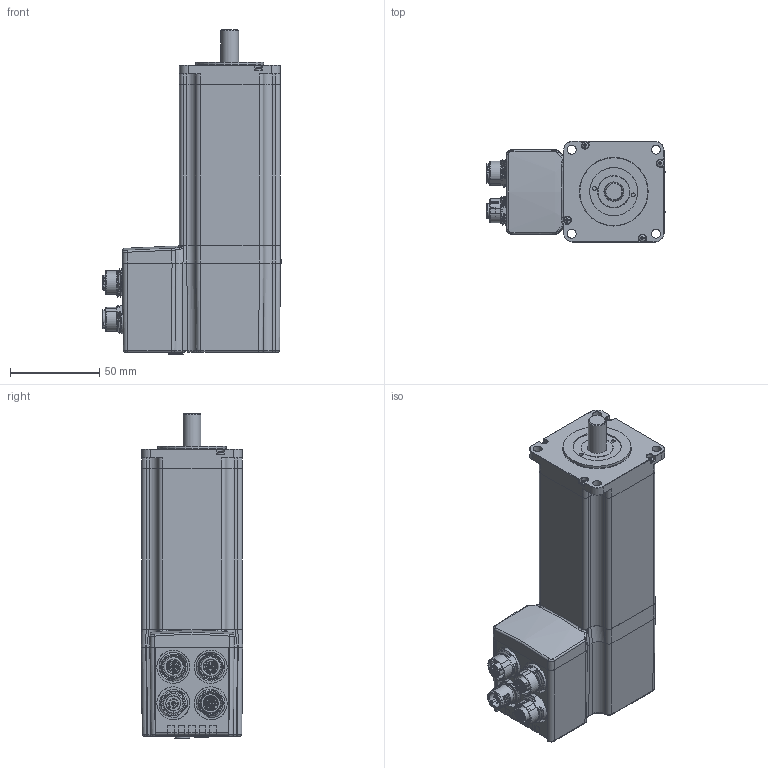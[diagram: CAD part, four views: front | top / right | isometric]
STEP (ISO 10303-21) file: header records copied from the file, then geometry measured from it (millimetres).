
FILE_DESCRIPTION (( 'STEP AP203' ), '1' );
FILE_NAME ('MIS233.STEP', '2017-02-20T07:21:22', ( '' ), ( '' ), 'SwSTEP 2.0', 'SolidWorks 2016', '' );
FILE_SCHEMA (( 'CONFIG_CONTROL_DESIGN' ));
Length unit declared in the file: millimetre
Products named in the file (13): Sealing_S; Motor_MIS23X_S; MIS233; Motor_end_cover_MIS23X_R3_S; Housing_MIS23X_Top_R8_S; M12_5P_MALE; M12_17P_FEMALE; M12_4P_FEMALE; Shaft_MIS23X_S; ISO_7045-M2x3-Z-3N_ISO 7045 - M2 x 3 - Z - 3N; Stator_MIS23X; Lock_nut_S; Front_Cap_MIS23X_S
Assembly tree (16 placements, depth 3):
  MIS233
    Motor_MIS23X_S
      Shaft_MIS23X_S
      Stator_MIS23X
      Front_Cap_MIS23X_S
    Motor_end_cover_MIS23X_R3_S
    Housing_MIS23X_Top_R8_S
    M12_5P_MALE
    M12_17P_FEMALE
    M12_4P_FEMALE  x2
    ISO_7045-M2x3-Z-3N_ISO 7045 - M2 x 3 - Z - 3N  x4
    Lock_nut_S
    Sealing_S
Bounding box: 99.82 x 56.67 x 181.7 mm (x, y, z)
Volume: 553731.7 mm3; surface area: 83849 mm2
Topology: 15 solids, 20 shells, 2092 faces, 5345 edges, 3423 vertices
Faces by surface type: plane 904, cylinder 540, bspline 312, torus 163, cone 126, sphere 47
Full cylindrical faces by diameter (mm): 0.217 x3, 0.6 x17, 1 x51, 1.1 x17, 1.52 x2, 1.6 x13, 2 x10, 2.2 x2, 2.5 x4, 3.3 x1, 4 x4, 5 x4, 6.755 x1, 7.555 x1, 10 x1, 10.7 x1, 10.9 x1, 11 x1, 11.13 x2, 12 x1, 12.2 x3, 13.25 x1, 14 x1, 14.6 x2, 15.4 x2, 15.6 x2, 16 x2, 18.1 x3, 18.5 x4, 27 x2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
Entity records: 66207 total; most frequent: CARTESIAN_POINT 31180, ORIENTED_EDGE 7016, DIRECTION 6269, EDGE_CURVE 3508, VERTEX_POINT 2389, AXIS2_PLACEMENT_3D 2323, EDGE_LOOP 1989, FACE_OUTER_BOUND 1741
